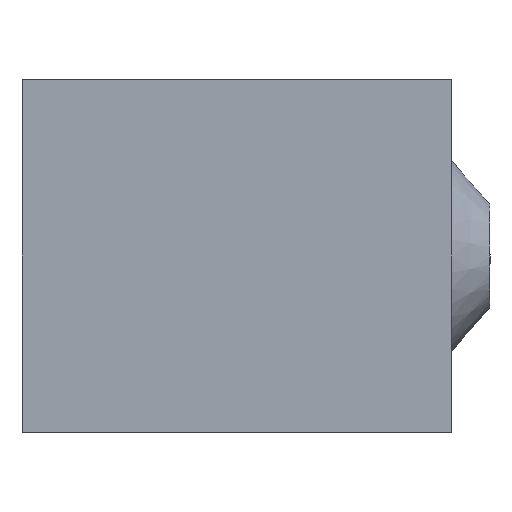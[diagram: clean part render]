
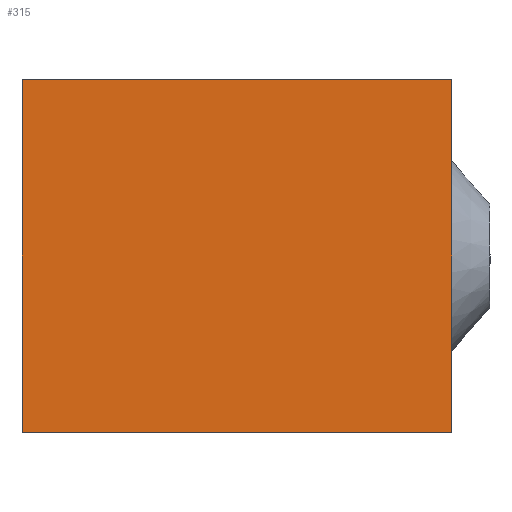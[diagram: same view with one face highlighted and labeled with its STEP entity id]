
A CAD part, left-side view. The second image highlights one B-rep face of the part: STEP entity #315.
In plain terms, the highlighted planar face has unit normal (-1, 0, 0).
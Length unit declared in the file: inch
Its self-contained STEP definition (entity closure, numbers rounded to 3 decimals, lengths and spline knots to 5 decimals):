
#14 = DIRECTION ( 'NONE',  ( 0., 0., 1. ) ) ;
#24 = CARTESIAN_POINT ( 'NONE',  ( 0., 0.67, 0.55 ) ) ;
#30 = CARTESIAN_POINT ( 'NONE',  ( 0., 0., 0. ) ) ;
#41 = CARTESIAN_POINT ( 'NONE',  ( 0., 0., 0.55 ) ) ;
#52 = FACE_OUTER_BOUND ( 'NONE', #221, .T. ) ;
#53 = VERTEX_POINT ( 'NONE', #431 ) ;
#62 = VECTOR ( 'NONE', #223, 39.37008 ) ;
#65 = VECTOR ( 'NONE', #483, 39.37008 ) ;
#73 = VERTEX_POINT ( 'NONE', #386 ) ;
#88 = ORIENTED_EDGE ( 'NONE', *, *, #175, .T. ) ;
#93 = AXIS2_PLACEMENT_3D ( 'NONE', #503, #263, #14 ) ;
#95 = LINE ( 'NONE', #327, #62 ) ;
#149 = CARTESIAN_POINT ( 'NONE',  ( 0., 0.67, 0.55 ) ) ;
#166 = PLANE ( 'NONE',  #93 ) ;
#170 = ORIENTED_EDGE ( 'NONE', *, *, #419, .F. ) ;
#175 = EDGE_CURVE ( 'NONE', #73, #495, #233, .T. ) ;
#206 = VECTOR ( 'NONE', #424, 39.37008 ) ;
#221 = EDGE_LOOP ( 'NONE', ( #170, #498, #88, #624 ) ) ;
#223 = DIRECTION ( 'NONE',  ( 0., 1., 0. ) ) ;
#229 = EDGE_CURVE ( 'NONE', #495, #53, #451, .T. ) ;
#233 = LINE ( 'NONE', #41, #206 ) ;
#263 = DIRECTION ( 'NONE',  ( -1., 0., 0. ) ) ;
#279 = CARTESIAN_POINT ( 'NONE',  ( 0., 0., 0.55 ) ) ;
#315 = ADVANCED_FACE ( 'NONE', ( #52 ), #166, .T. ) ;
#327 = CARTESIAN_POINT ( 'NONE',  ( 0., 0., 0. ) ) ;
#386 = CARTESIAN_POINT ( 'NONE',  ( 0., 0., 0.55 ) ) ;
#402 = DIRECTION ( 'NONE',  ( 0., 0., -1. ) ) ;
#419 = EDGE_CURVE ( 'NONE', #538, #53, #95, .T. ) ;
#424 = DIRECTION ( 'NONE',  ( 0., 1., 0. ) ) ;
#431 = CARTESIAN_POINT ( 'NONE',  ( 0., 0.67, 0. ) ) ;
#451 = LINE ( 'NONE', #149, #65 ) ;
#483 = DIRECTION ( 'NONE',  ( 0., 0., -1. ) ) ;
#495 = VERTEX_POINT ( 'NONE', #24 ) ;
#498 = ORIENTED_EDGE ( 'NONE', *, *, #526, .F. ) ;
#503 = CARTESIAN_POINT ( 'NONE',  ( 0., 0., 0.55 ) ) ;
#526 = EDGE_CURVE ( 'NONE', #73, #538, #623, .T. ) ;
#533 = VECTOR ( 'NONE', #402, 39.37008 ) ;
#538 = VERTEX_POINT ( 'NONE', #30 ) ;
#623 = LINE ( 'NONE', #279, #533 ) ;
#624 = ORIENTED_EDGE ( 'NONE', *, *, #229, .T. ) ;
